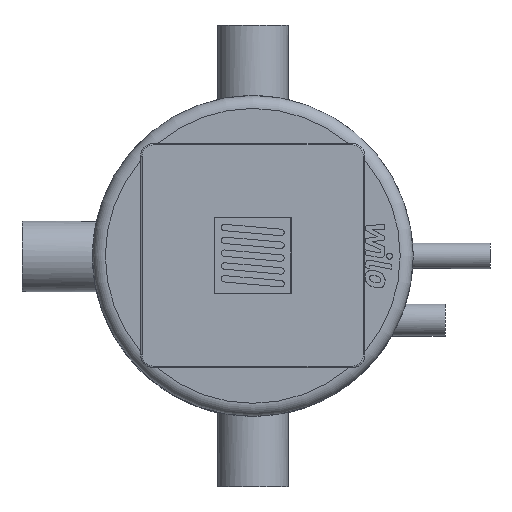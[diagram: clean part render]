
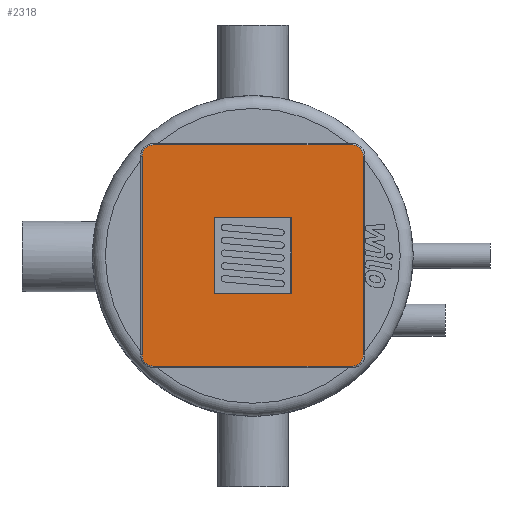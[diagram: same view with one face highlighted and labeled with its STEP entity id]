
A CAD part, top view. The second image highlights one B-rep face of the part: STEP entity #2318.
In plain terms, the highlighted planar face has unit normal (0, 0, 1).
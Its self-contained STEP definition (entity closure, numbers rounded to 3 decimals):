
#129=FACE_BOUND('',#490,.T.);
#195=CIRCLE('',#2503,17.5);
#196=CIRCLE('',#2504,17.5);
#197=CIRCLE('',#2505,17.5);
#198=CIRCLE('',#2506,17.5);
#331=FACE_OUTER_BOUND('',#489,.T.);
#489=EDGE_LOOP('',(#1704,#1705,#1706,#1707,#1708,#1709,#1710,#1711));
#490=EDGE_LOOP('',(#1712,#1713,#1714,#1715));
#712=LINE('',#3448,#893);
#715=LINE('',#3454,#896);
#718=LINE('',#3460,#899);
#721=LINE('',#3464,#902);
#722=LINE('',#3471,#903);
#723=LINE('',#3475,#904);
#724=LINE('',#3479,#905);
#725=LINE('',#3482,#906);
#893=VECTOR('',#2824,10.);
#896=VECTOR('',#2829,10.);
#899=VECTOR('',#2834,10.);
#902=VECTOR('',#2839,10.);
#903=VECTOR('',#2846,10.);
#904=VECTOR('',#2849,10.);
#905=VECTOR('',#2852,10.);
#906=VECTOR('',#2855,10.);
#1070=VERTEX_POINT('',#3445);
#1071=VERTEX_POINT('',#3447);
#1073=VERTEX_POINT('',#3453);
#1075=VERTEX_POINT('',#3459);
#1076=VERTEX_POINT('',#3467);
#1077=VERTEX_POINT('',#3468);
#1078=VERTEX_POINT('',#3470);
#1079=VERTEX_POINT('',#3472);
#1080=VERTEX_POINT('',#3474);
#1081=VERTEX_POINT('',#3476);
#1082=VERTEX_POINT('',#3478);
#1083=VERTEX_POINT('',#3480);
#1316=EDGE_CURVE('',#1071,#1070,#712,.T.);
#1319=EDGE_CURVE('',#1073,#1071,#715,.T.);
#1322=EDGE_CURVE('',#1075,#1073,#718,.T.);
#1325=EDGE_CURVE('',#1070,#1075,#721,.T.);
#1326=EDGE_CURVE('',#1076,#1077,#195,.T.);
#1327=EDGE_CURVE('',#1078,#1076,#722,.T.);
#1328=EDGE_CURVE('',#1079,#1078,#196,.T.);
#1329=EDGE_CURVE('',#1080,#1079,#723,.T.);
#1330=EDGE_CURVE('',#1081,#1080,#197,.T.);
#1331=EDGE_CURVE('',#1082,#1081,#724,.T.);
#1332=EDGE_CURVE('',#1083,#1082,#198,.T.);
#1333=EDGE_CURVE('',#1077,#1083,#725,.T.);
#1704=ORIENTED_EDGE('',*,*,#1326,.F.);
#1705=ORIENTED_EDGE('',*,*,#1327,.F.);
#1706=ORIENTED_EDGE('',*,*,#1328,.F.);
#1707=ORIENTED_EDGE('',*,*,#1329,.F.);
#1708=ORIENTED_EDGE('',*,*,#1330,.F.);
#1709=ORIENTED_EDGE('',*,*,#1331,.F.);
#1710=ORIENTED_EDGE('',*,*,#1332,.F.);
#1711=ORIENTED_EDGE('',*,*,#1333,.F.);
#1712=ORIENTED_EDGE('',*,*,#1316,.T.);
#1713=ORIENTED_EDGE('',*,*,#1325,.T.);
#1714=ORIENTED_EDGE('',*,*,#1322,.T.);
#1715=ORIENTED_EDGE('',*,*,#1319,.T.);
#2232=PLANE('',#2502);
#2318=ADVANCED_FACE('',(#331,#129),#2232,.T.);
#2502=AXIS2_PLACEMENT_3D('',#3466,#2842,#2843);
#2503=AXIS2_PLACEMENT_3D('',#3469,#2844,#2845);
#2504=AXIS2_PLACEMENT_3D('',#3473,#2847,#2848);
#2505=AXIS2_PLACEMENT_3D('',#3477,#2850,#2851);
#2506=AXIS2_PLACEMENT_3D('',#3481,#2853,#2854);
#2824=DIRECTION('',(0.,1.,0.));
#2829=DIRECTION('',(-1.,0.,0.));
#2834=DIRECTION('',(0.,-1.,0.));
#2839=DIRECTION('',(1.,0.,0.));
#2842=DIRECTION('center_axis',(0.,0.,1.));
#2843=DIRECTION('ref_axis',(1.,0.,0.));
#2844=DIRECTION('center_axis',(0.,0.,-1.));
#2845=DIRECTION('ref_axis',(-0.707,0.707,0.));
#2846=DIRECTION('',(0.,1.,0.));
#2847=DIRECTION('center_axis',(0.,0.,-1.));
#2848=DIRECTION('ref_axis',(-0.707,-0.707,0.));
#2849=DIRECTION('',(-1.,0.,0.));
#2850=DIRECTION('center_axis',(0.,0.,-1.));
#2851=DIRECTION('ref_axis',(0.707,-0.707,0.));
#2852=DIRECTION('',(0.,-1.,0.));
#2853=DIRECTION('center_axis',(0.,0.,-1.));
#2854=DIRECTION('ref_axis',(0.707,0.707,0.));
#2855=DIRECTION('',(1.,0.,0.));
#3445=CARTESIAN_POINT('',(-60.,60.,880.));
#3447=CARTESIAN_POINT('',(-60.,-60.,880.));
#3448=CARTESIAN_POINT('',(-60.,30.,880.));
#3453=CARTESIAN_POINT('',(60.,-60.,880.));
#3454=CARTESIAN_POINT('',(-30.,-60.,880.));
#3459=CARTESIAN_POINT('',(60.,60.,880.));
#3460=CARTESIAN_POINT('',(60.,-30.,880.));
#3464=CARTESIAN_POINT('',(30.,60.,880.));
#3466=CARTESIAN_POINT('Origin',(0.,0.,
880.));
#3467=CARTESIAN_POINT('',(-172.5,155.,880.));
#3468=CARTESIAN_POINT('',(-155.,172.5,880.));
#3469=CARTESIAN_POINT('Origin',(-155.,155.,880.));
#3470=CARTESIAN_POINT('',(-172.5,-155.,880.));
#3471=CARTESIAN_POINT('',(-172.5,77.5,880.));
#3472=CARTESIAN_POINT('',(-155.,-172.5,880.));
#3473=CARTESIAN_POINT('Origin',(-155.,-155.,880.));
#3474=CARTESIAN_POINT('',(155.,-172.5,880.));
#3475=CARTESIAN_POINT('',(-77.5,-172.5,880.));
#3476=CARTESIAN_POINT('',(172.5,-155.,880.));
#3477=CARTESIAN_POINT('Origin',(155.,-155.,880.));
#3478=CARTESIAN_POINT('',(172.5,155.,880.));
#3479=CARTESIAN_POINT('',(172.5,-77.5,880.));
#3480=CARTESIAN_POINT('',(155.,172.5,880.));
#3481=CARTESIAN_POINT('Origin',(155.,155.,880.));
#3482=CARTESIAN_POINT('',(77.5,172.5,880.));
